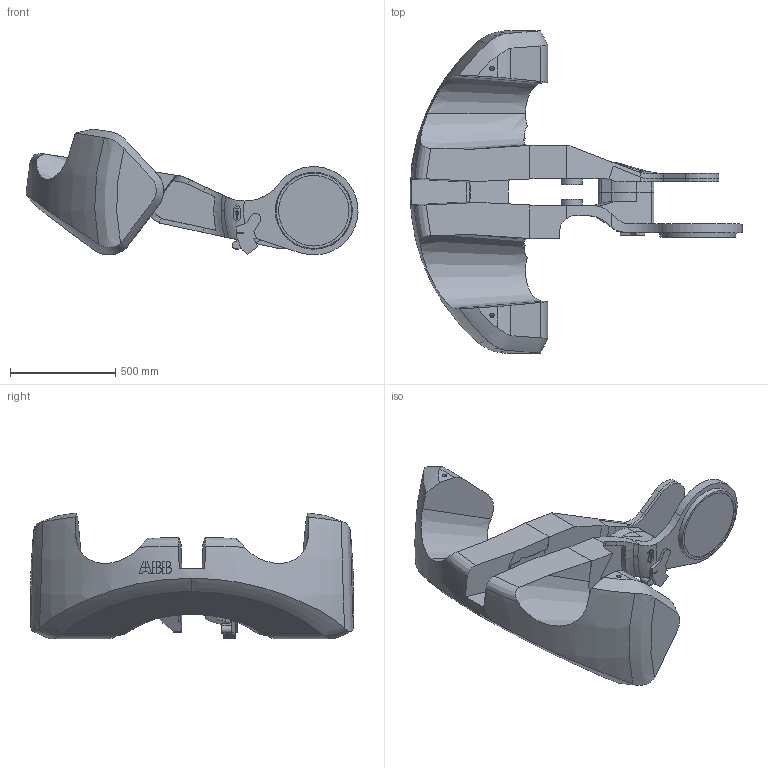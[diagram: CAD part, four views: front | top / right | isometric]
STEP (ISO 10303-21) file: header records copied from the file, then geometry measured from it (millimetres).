
FILE_DESCRIPTION (( 'STEP AP203' ), '1' );
FILE_NAME ('IRB8700-MH6_800-350_IRC5_rev00_LINKARM_CAD.STEP', '2015-06-04T08:29:17', ( 'ABB' ), ( 'ABB' ), 'SwSTEP 2.0', 'SolidWorks 2014', '' );
FILE_SCHEMA (( 'CONFIG_CONTROL_DESIGN' ));
Length unit declared in the file: millimetre
Products named in the file (1): IRB8700-MH6_800-350_IRC5_rev00_LINKARM_CAD
Bounding box: 1577.36 x 1532.82 x 598.07 mm (x, y, z)
Volume: 210336999.4 mm3; surface area: 4850024.7 mm2
Topology: 1 solids, 1 shells, 385 faces, 1060 edges, 695 vertices
Faces by surface type: plane 241, cylinder 65, bspline 47, cone 18, torus 14
Entity records: 19445 total; most frequent: CARTESIAN_POINT 10457, ORIENTED_EDGE 2112, DIRECTION 1444, EDGE_CURVE 1056, VERTEX_POINT 695, VECTOR 532, LINE 532, AXIS2_PLACEMENT_3D 456
